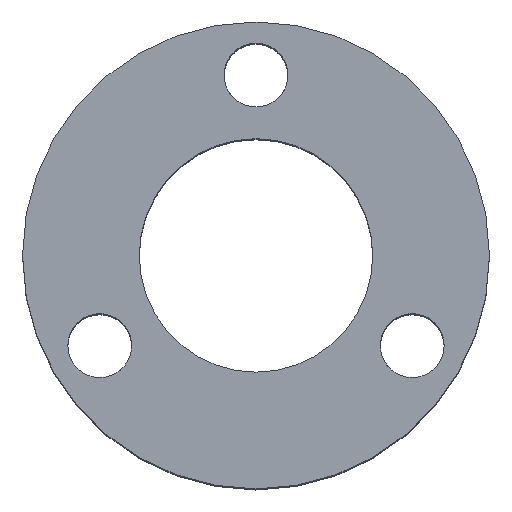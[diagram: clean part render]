
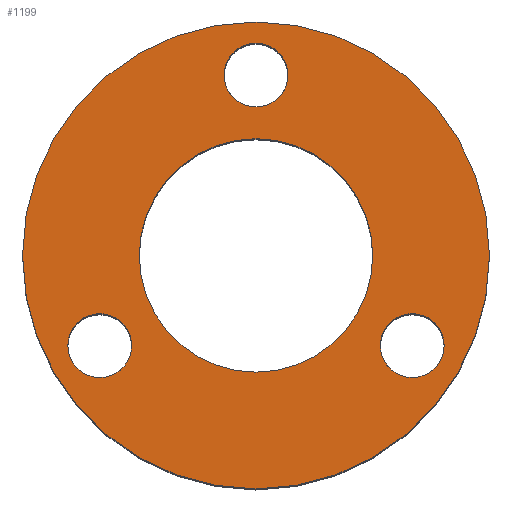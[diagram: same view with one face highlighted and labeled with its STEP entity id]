
A CAD part, top view. The second image highlights one B-rep face of the part: STEP entity #1199.
In plain terms, the highlighted planar face has unit normal (0, 0, 1).
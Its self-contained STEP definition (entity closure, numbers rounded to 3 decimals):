
#18=PLANE('',#1371);
#86=CIRCLE('',#1369,11.);
#88=CIRCLE('',#1372,5.5);
#89=CIRCLE('',#1373,1.505);
#90=CIRCLE('',#1374,1.505);
#91=CIRCLE('',#1375,1.505);
#322=ORIENTED_EDGE('',*,*,#580,.F.);
#323=ORIENTED_EDGE('',*,*,#581,.T.);
#324=ORIENTED_EDGE('',*,*,#582,.T.);
#325=ORIENTED_EDGE('',*,*,#583,.T.);
#326=ORIENTED_EDGE('',*,*,#578,.F.);
#578=EDGE_CURVE('',#726,#726,#86,.T.);
#580=EDGE_CURVE('',#728,#728,#88,.T.);
#581=EDGE_CURVE('',#729,#729,#89,.F.);
#582=EDGE_CURVE('',#730,#730,#90,.F.);
#583=EDGE_CURVE('',#731,#731,#91,.F.);
#726=VERTEX_POINT('',#2083);
#728=VERTEX_POINT('',#2088);
#729=VERTEX_POINT('',#2090);
#730=VERTEX_POINT('',#2092);
#731=VERTEX_POINT('',#2094);
#942=EDGE_LOOP('',(#322));
#943=EDGE_LOOP('',(#323));
#944=EDGE_LOOP('',(#324));
#945=EDGE_LOOP('',(#325));
#946=EDGE_LOOP('',(#326));
#1054=FACE_BOUND('',#942,.T.);
#1055=FACE_BOUND('',#943,.T.);
#1056=FACE_BOUND('',#944,.T.);
#1057=FACE_BOUND('',#945,.T.);
#1058=FACE_BOUND('',#946,.T.);
#1199=ADVANCED_FACE('',(#1054,#1055,#1056,#1057,#1058),#18,.T.);
#1369=AXIS2_PLACEMENT_3D('',#2082,#1684,#1685);
#1371=AXIS2_PLACEMENT_3D('',#2086,#1688,#1689);
#1372=AXIS2_PLACEMENT_3D('',#2087,#1690,#1691);
#1373=AXIS2_PLACEMENT_3D('',#2089,#1692,#1693);
#1374=AXIS2_PLACEMENT_3D('',#2091,#1694,#1695);
#1375=AXIS2_PLACEMENT_3D('',#2093,#1696,#1697);
#1684=DIRECTION('',(0.,0.,-1.));
#1685=DIRECTION('',(1.,0.,0.));
#1688=DIRECTION('',(0.,0.,1.));
#1689=DIRECTION('',(1.,0.,0.));
#1690=DIRECTION('',(0.,0.,1.));
#1691=DIRECTION('',(1.,0.,0.));
#1692=DIRECTION('',(0.,0.,1.));
#1693=DIRECTION('',(1.,0.,0.));
#1694=DIRECTION('',(0.,0.,1.));
#1695=DIRECTION('',(1.,0.,0.));
#1696=DIRECTION('',(0.,0.,1.));
#1697=DIRECTION('',(1.,0.,0.));
#2082=CARTESIAN_POINT('',(0.,0.,27.2));
#2083=CARTESIAN_POINT('',(11.,0.,27.2));
#2086=CARTESIAN_POINT('',(0.,0.,27.2));
#2087=CARTESIAN_POINT('',(0.,0.,27.2));
#2088=CARTESIAN_POINT('',(5.5,0.,27.2));
#2089=CARTESIAN_POINT('',(7.361,-4.25,27.2));
#2090=CARTESIAN_POINT('',(8.866,-4.25,27.2));
#2091=CARTESIAN_POINT('',(0.,8.5,27.2));
#2092=CARTESIAN_POINT('',(1.505,8.5,27.2));
#2093=CARTESIAN_POINT('',(-7.361,-4.25,27.2));
#2094=CARTESIAN_POINT('',(-5.856,-4.25,27.2));
